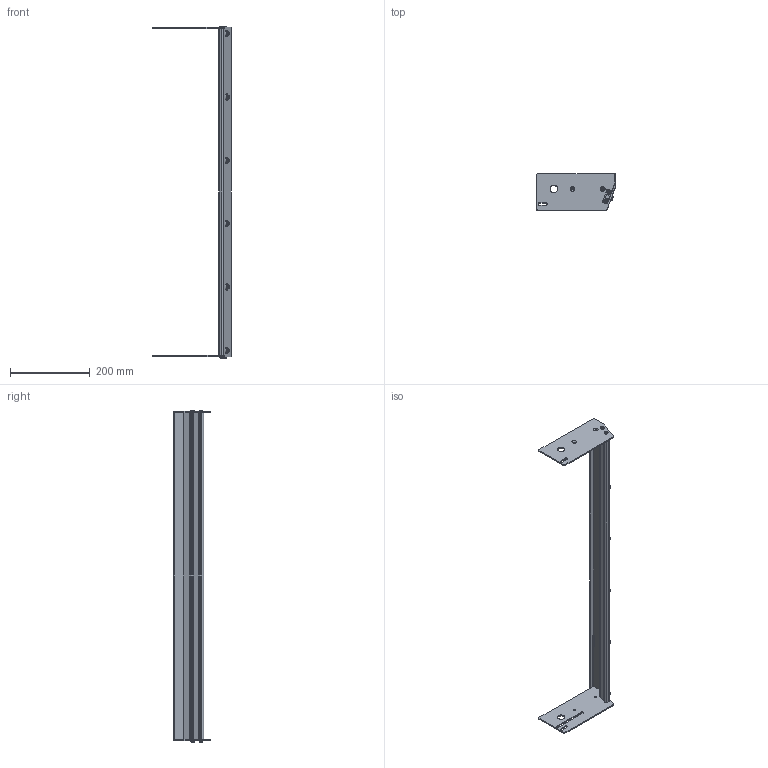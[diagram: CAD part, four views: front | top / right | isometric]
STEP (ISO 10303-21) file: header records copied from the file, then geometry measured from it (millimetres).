
FILE_DESCRIPTION((''),'2;1');
FILE_NAME('351199-32_ASM','2023-03-15T',('jenni.wallner'),(''),'PRO/ENGINEER BY PARAMETRIC TECHNOLOGY CORPORATION, 2012420','PRO/ENGINEER BY PARAMETRIC TECHNOLOGY CORPORATION, 2012420','');
FILE_SCHEMA(('CONFIG_CONTROL_DESIGN'));
Length unit declared in the file: inch
Products named in the file (10): 990603M; 605279P; 9505XXM_950512M; 9506XXM_950612M; 351202-WW_351202-32; 351200_DEFAULT_AS_MACHINED_; 351201; 351203-WW_351203-32; ASM0001_ASM; 351199-32_ASM
Assembly tree (27 placements, depth 3):
  351199-32_ASM
    ASM0001_ASM
      990603M  x6
      605279P  x6
      9505XXM_950512M  x4
      9506XXM_950612M  x6
      351202-WW_351202-32
      351200_DEFAULT_AS_MACHINED_
      351201
      351203-WW_351203-32
Bounding box: 196.11 x 93.08 x 831.89 mm (x, y, z)
Volume: 431863.9 mm3; surface area: 352061.6 mm2
Topology: 26 solids, 26 shells, 501 faces, 1181 edges, 752 vertices
Faces by surface type: plane 230, cylinder 171, cone 100
Entity records: 8405 total; most frequent: CARTESIAN_POINT 1541, DIRECTION 1516, ORIENTED_EDGE 1308, EDGE_CURVE 654, AXIS2_PLACEMENT_3D 573, VERTEX_POINT 428, VECTOR 370, LINE 370
